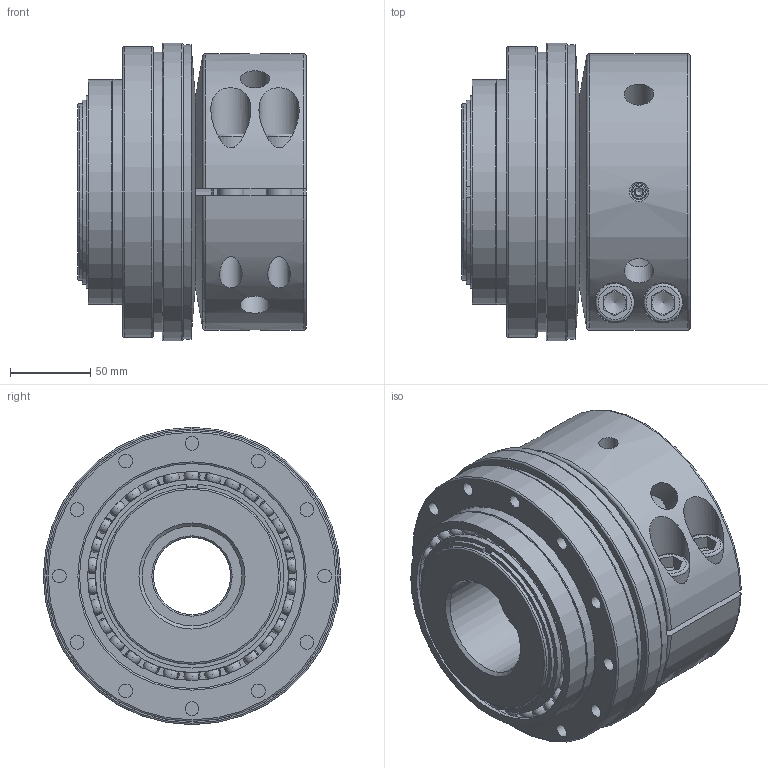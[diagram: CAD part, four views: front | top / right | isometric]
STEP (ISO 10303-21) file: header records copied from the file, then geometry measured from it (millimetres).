
FILE_DESCRIPTION(/* description */ ('Unknown','CAx-IF Rec.Pracs.---Representation and Presentation of Product Manufacturing Information (PMI)---4.0---2014-10-13','CAx-IF Rec.Pracs.---3D Tessellated Geometry---0.4---2014-09-14','2;1'),/* implementation_level */ '2;1');
FILE_NAME(/* name */ 'SKB 2000',/* time_stamp */ '2024-10-02T16:02:12+02:00',/* author */ ('Unknown'),/* organization */ ('Unknown'),/* preprocessor_version */ 'ST-DEVELOPER v18.102',/* originating_system */ 'Solid Edge',/* authorisation */ 'Unknown');
FILE_SCHEMA (('AP242_MANAGED_MODEL_BASED_3D_ENGINEERING_MIM_LF { 1 0 10303 442 1 1 4 }'));
Length unit declared in the file: millimetre
Products named in the file (1): SKB 2000
Bounding box: 142.33 x 185 x 185 mm (x, y, z)
Volume: 2620104.2 mm3; surface area: 273513.4 mm2
Topology: 1 solids, 8 shells, 404 faces, 1472 edges, 973 vertices
Faces by surface type: torus 138, plane 100, cylinder 67, sphere 66, cone 33
Full cylindrical faces by diameter (mm): 8.5 x16, 10 x2, 12 x2, 14 x2, 16 x2, 16.5 x2, 18.5 x4, 24 x2, 25 x2, 48 x1, 62 x1, 107.7 x1, 109.8 x1, 110 x3, 120 x3, 130 x3, 140 x3, 174 x1, 181 x1, 185 x1
Entity records: 23272 total; most frequent: CARTESIAN_POINT 10136, ORIENTED_EDGE 2278, DIRECTION 1852, EDGE_CURVE 1139, AXIS2_PLACEMENT_3D 823, VERTEX_POINT 807, FACE_BOUND 610, EDGE_LOOP 600
